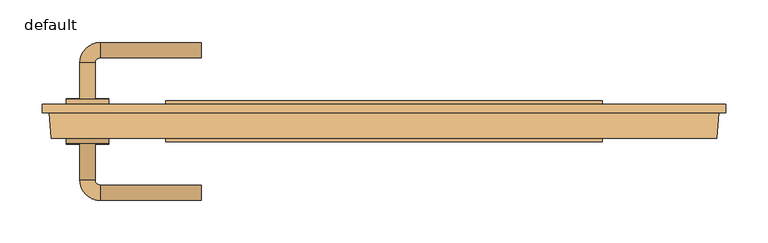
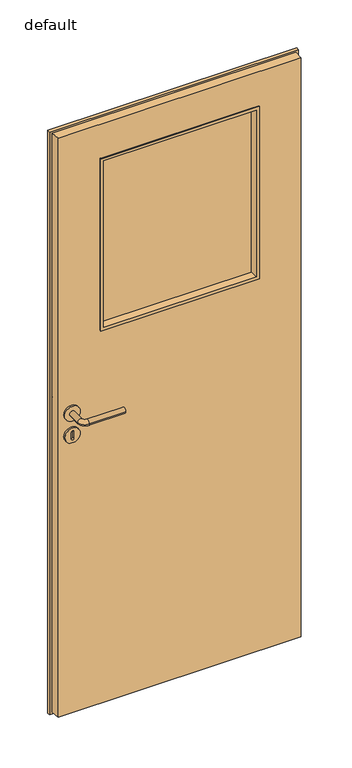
"""IFC4 building model written with IfcOpenShell, lengths in millimetres: door geometry, Panel_FIN_40D_Rebated_Glazed_05 : default."""

from ifc_helpers import new_model, si_unit, point, frame, frame_2d, origin, place, context, project, spatial, polyline, circle_curve, ellipse_curve, trimmed, segment, composite_curve, outline, extrude, faceted_brep, source, transform, mapped, element, save
from ifc_brep_helpers import plane_surface, cylinder_surface, revolved_surface, advanced_brep


def default_3b366235(model_context):
    return source(origin(), model_context, "Body", "SolidModel", [
        extrude(outline(composite_curve([segment(trimmed(circle_curve(frame_2d((970.5, -349.5)), 25.0), [point((970.5, -324.5))], [point((970.5, -374.5))], False, "CARTESIAN"), True, "CONTINUOUS"), segment(trimmed(circle_curve(frame_2d((970.5, -349.5)), 25.0), [point((970.5, -374.5))], [point((970.5, -324.5))], False, "CARTESIAN"), True, "CONTINUOUS")], self_intersect=False), holes=[composite_curve([segment(trimmed(circle_curve(frame_2d((981.743411, -349.5)), 4.0), [point((981.743411, -353.5))], [point((981.743411, -345.5))], True, "CARTESIAN"), True, "CONTINUOUS"), segment(polyline([(981.743411, -345.5), (959.256589, -345.5)]), True, "CONTINUOUS"), segment(trimmed(circle_curve(frame_2d((959.256589, -349.5)), 4.0), [point((959.256589, -345.5))], [point((959.256589, -353.5))], True, "CARTESIAN"), True, "CONTINUOUS"), segment(polyline([(959.256589, -353.5), (981.743411, -353.5)]), True, "CONTINUOUS")], self_intersect=False)]), frame((0.0, -47.0, 0.0), z_axis=(0.0, 1.0, 0.0), x_axis=(0.0, 0.0, 1.0)), (0.0, 0.0, 1.0), 7.0),
        extrude(outline(composite_curve([segment(trimmed(circle_curve(frame_2d((970.5, -349.5)), 25.0), [point((970.5, -324.5))], [point((970.5, -374.5))], False, "CARTESIAN"), True, "CONTINUOUS"), segment(trimmed(circle_curve(frame_2d((970.5, -349.5)), 25.0), [point((970.5, -374.5))], [point((970.5, -324.5))], False, "CARTESIAN"), True, "CONTINUOUS")], self_intersect=False), holes=[composite_curve([segment(polyline([(959.256589, -353.5), (981.743411, -353.5)]), True, "CONTINUOUS"), segment(trimmed(circle_curve(frame_2d((981.743411, -349.5)), 4.0), [point((981.743411, -353.5))], [point((981.743411, -345.5))], True, "CARTESIAN"), True, "CONTINUOUS"), segment(polyline([(981.743411, -345.5), (959.256589, -345.5)]), True, "CONTINUOUS"), segment(trimmed(circle_curve(frame_2d((959.256589, -349.5)), 4.0), [point((959.256589, -345.5))], [point((959.256589, -353.5))], True, "CARTESIAN"), True, "CONTINUOUS")], self_intersect=False)]), frame((0.0, 0.0, 0.0), z_axis=(0.0, 1.0, 0.0), x_axis=(0.0, 0.0, 1.0)), (0.0, 0.0, 1.0), 7.0),
        advanced_brep(
        [(-374.5, -46.0, 1044.5), (-324.5, -46.0, 1044.5), (-340.5346073, -46.0, 1044.5), (-358.4653927, -46.0, 1044.5), (-374.5, -40.0, 1044.5), (-324.5, -40.0, 1044.5), (-358.4653927, -88.9627146, 1044.5), (-340.5346073, -88.9627146, 1044.5), (-334.5, -112.9281073, 1044.5), (-334.5, -94.9973219, 1044.5), (-215.5, -94.9973219, 1044.5), (-215.5, -112.9281073, 1044.5)],
        [
            (0, 1, circle_curve(frame((-349.5, -46.0, 1044.5), z_axis=(0.0, -1.0, 0.0), x_axis=(1.0, 0.0, 0.0)), 25.0)),
            (1, 0, circle_curve(frame((-349.5, -46.0, 1044.5), z_axis=(0.0, -1.0, 0.0), x_axis=(1.0, 0.0, 0.0)), 25.0)),
            (2, 3, circle_curve(frame((-349.5, -46.0, 1044.5), z_axis=(0.0, 1.0, 0.0), x_axis=(-1.0, 0.0, 0.0)), 8.9653927)),
            (3, 2, circle_curve(frame((-349.5, -46.0, 1044.5), z_axis=(0.0, 1.0, 0.0), x_axis=(-1.0, 0.0, 0.0)), 8.9653927)),
            (4, 5, circle_curve(frame((-349.5, -40.0, 1044.5), z_axis=(0.0, 1.0, 0.0), x_axis=(1.0, 0.0, 0.0)), 25.0)),
            (5, 4, circle_curve(frame((-349.5, -40.0, 1044.5), z_axis=(0.0, 1.0, 0.0), x_axis=(1.0, 0.0, 0.0)), 25.0)),
            (0, 4),
            (5, 1),
            (3, 6),
            (6, 7, circle_curve(frame((-349.5, -88.9627146, 1044.5), z_axis=(0.0, 1.0, 0.0), x_axis=(-1.0, 0.0, 0.0)), 8.9653927)),
            (7, 2),
            (7, 6, circle_curve(frame((-349.5, -88.9627146, 1044.5), z_axis=(0.0, 1.0, 0.0), x_axis=(-1.0, 0.0, 0.0)), 8.9653927)),
            (6, 8, circle_curve(frame((-334.5, -88.9627146, 1044.5), z_axis=(0.0, 0.0, 1.0), x_axis=(-1.0, 0.0, 0.0)), 23.9653927)),
            (8, 9, circle_curve(frame((-334.5, -103.9627146, 1044.5), z_axis=(-1.0, 0.0, 0.0), x_axis=(0.0, -1.0, 0.0)), 8.9653927)),
            (9, 7, circle_curve(frame((-334.5, -88.9627146, 1044.5), z_axis=(0.0, 0.0, -1.0), x_axis=(-1.0, 0.0, 0.0)), 6.0346073)),
            (9, 8, circle_curve(frame((-334.5, -103.9627146, 1044.5), z_axis=(-1.0, 0.0, 0.0), x_axis=(0.0, -1.0, 0.0)), 8.9653927)),
            (10, 11, circle_curve(frame((-215.5, -103.9627146, 1044.5), z_axis=(1.0, 0.0, 0.0), x_axis=(0.0, -1.0, 0.0)), 8.9653927)),
            (11, 10, circle_curve(frame((-215.5, -103.9627146, 1044.5), z_axis=(1.0, 0.0, 0.0), x_axis=(0.0, -1.0, 0.0)), 8.9653927)),
            (8, 11),
            (10, 9),
        ],
        [
            plane_surface(frame((-324.5, -46.0, 1044.5), z_axis=(0.0, -1.0, 0.0), x_axis=(0.0, 0.0, -1.0))),
            plane_surface(frame((-324.5, -40.0, 1044.5), z_axis=(0.0, 1.0, 0.0), x_axis=(0.0, 0.0, 1.0))),
            cylinder_surface(frame((-349.5, -46.0, 1044.5), z_axis=(0.0, 1.0, 0.0), x_axis=(1.0, 0.0, 0.0)), 25.0),
            cylinder_surface(frame((-349.5, -46.0, 1044.5), z_axis=(0.0, 1.0, 0.0), x_axis=(-1.0, 0.0, 0.0)), 8.9653927),
            revolved_surface(trimmed(ellipse_curve(frame((-349.5, -88.9627146, 1044.5), z_axis=(0.0, -1.0, 0.0), x_axis=(-1.0, 0.0, 0.0)), 8.9653927, 8.9653927), [point((-340.5346073, -88.9627146, 1044.5))], [point((-358.4653927, -88.9627146, 1044.5))], True, "CARTESIAN"), (-334.5, -88.9627146, 1044.5), (0.0, 0.0, -1.0)),
            revolved_surface(trimmed(ellipse_curve(frame((-349.5, -88.9627146, 1044.5), z_axis=(0.0, -1.0, 0.0), x_axis=(-1.0, 0.0, 0.0)), 8.9653927, 8.9653927), [point((-358.4653927, -88.9627146, 1044.5))], [point((-340.5346073, -88.9627146, 1044.5))], True, "CARTESIAN"), (-334.5, -88.9627146, 1044.5), (0.0, 0.0, -1.0)),
            plane_surface(frame((-215.5, -103.9627146, 1044.5), z_axis=(1.0, 0.0, 0.0), x_axis=(0.0, 0.0, 1.0))),
            cylinder_surface(frame((-334.5, -103.9627146, 1044.5), z_axis=(-1.0, 0.0, 0.0), x_axis=(0.0, -1.0, 0.0)), 8.9653927),
        ],
        [
            (0, [[1, 2], [3, 4]]),
            (1, [[5, 6]]),
            (2, [[7, -6, 8, -1]]),
            (2, [[-8, -5, -7, -2]]),
            (3, [[-4, 9, 10, 11]]),
            (3, [[12, -9, -3, -11]]),
            (4, [[13, 14, 15, -10]]),
            (5, [[-15, 16, -13, -12]]),
            (6, [[17, 18]]),
            (7, [[19, -17, 20, -14]]),
            (7, [[-20, -18, -19, -16]]),
        ],
    ),
        advanced_brep(
        [(-374.5, 6.0, 1044.5), (-324.5, 6.0, 1044.5), (-340.5346073, 6.0, 1044.5), (-358.4653927, 6.0, 1044.5), (-374.5, 0.0, 1044.5), (-324.5, 0.0, 1044.5), (-340.5346073, 48.9627146, 1044.5), (-358.4653927, 48.9627146, 1044.5), (-334.5, 54.9973219, 1044.5), (-334.5, 72.9281073, 1044.5), (-215.5, 54.9973219, 1044.5), (-215.5, 72.9281073, 1044.5)],
        [
            (0, 1, circle_curve(frame((-349.5, 6.0, 1044.5), z_axis=(0.0, 1.0, 0.0), x_axis=(1.0, 0.0, 0.0)), 25.0)),
            (1, 0, circle_curve(frame((-349.5, 6.0, 1044.5), z_axis=(0.0, 1.0, 0.0), x_axis=(1.0, 0.0, 0.0)), 25.0)),
            (2, 3, circle_curve(frame((-349.5, 6.0, 1044.5), z_axis=(0.0, -1.0, 0.0), x_axis=(-1.0, 0.0, 0.0)), 8.9653927)),
            (3, 2, circle_curve(frame((-349.5, 6.0, 1044.5), z_axis=(0.0, -1.0, 0.0), x_axis=(-1.0, 0.0, 0.0)), 8.9653927)),
            (4, 5, circle_curve(frame((-349.5, 0.0, 1044.5), z_axis=(0.0, -1.0, 0.0), x_axis=(1.0, 0.0, 0.0)), 25.0)),
            (5, 4, circle_curve(frame((-349.5, 0.0, 1044.5), z_axis=(0.0, -1.0, 0.0), x_axis=(1.0, 0.0, 0.0)), 25.0)),
            (1, 5),
            (4, 0),
            (2, 6),
            (6, 7, circle_curve(frame((-349.5, 48.9627146, 1044.5), z_axis=(0.0, -1.0, 0.0), x_axis=(-1.0, 0.0, 0.0)), 8.9653927)),
            (7, 3),
            (7, 6, circle_curve(frame((-349.5, 48.9627146, 1044.5), z_axis=(0.0, -1.0, 0.0), x_axis=(-1.0, 0.0, 0.0)), 8.9653927)),
            (6, 8, circle_curve(frame((-334.5, 48.9627146, 1044.5), z_axis=(0.0, 0.0, -1.0), x_axis=(-1.0, 0.0, 0.0)), 6.0346073)),
            (8, 9, circle_curve(frame((-334.5, 63.9627146, 1044.5), z_axis=(-1.0, 0.0, 0.0), x_axis=(0.0, 1.0, 0.0)), 8.9653927)),
            (9, 7, circle_curve(frame((-334.5, 48.9627146, 1044.5), z_axis=(0.0, 0.0, 1.0), x_axis=(-1.0, 0.0, 0.0)), 23.9653927)),
            (9, 8, circle_curve(frame((-334.5, 63.9627146, 1044.5), z_axis=(-1.0, 0.0, 0.0), x_axis=(0.0, 1.0, 0.0)), 8.9653927)),
            (10, 11, circle_curve(frame((-215.5, 63.9627146, 1044.5), z_axis=(1.0, 0.0, 0.0), x_axis=(0.0, 1.0, 0.0)), 8.9653927)),
            (11, 10, circle_curve(frame((-215.5, 63.9627146, 1044.5), z_axis=(1.0, 0.0, 0.0), x_axis=(0.0, 1.0, 0.0)), 8.9653927)),
            (8, 10),
            (11, 9),
        ],
        [
            plane_surface(frame((-324.5, 6.0, 1044.5), z_axis=(0.0, 1.0, 0.0), x_axis=(0.0, 0.0, -1.0))),
            plane_surface(frame((-324.5, 0.0, 1044.5), z_axis=(0.0, -1.0, 0.0), x_axis=(0.0, 0.0, 1.0))),
            cylinder_surface(frame((-349.5, 6.0, 1044.5), z_axis=(0.0, -1.0, 0.0), x_axis=(1.0, 0.0, 0.0)), 25.0),
            cylinder_surface(frame((-349.5, 6.0, 1044.5), z_axis=(0.0, -1.0, 0.0), x_axis=(-1.0, 0.0, 0.0)), 8.9653927),
            revolved_surface(trimmed(ellipse_curve(frame((-349.5, 48.9627146, 1044.5), z_axis=(0.0, -1.0, 0.0), x_axis=(-1.0, 0.0, 0.0)), 8.9653927, 8.9653927), [point((-340.5346073, 48.9627146, 1044.5))], [point((-358.4653927, 48.9627146, 1044.5))], True, "CARTESIAN"), (-334.5, 48.9627146, 1044.5), (0.0, 0.0, -1.0)),
            revolved_surface(trimmed(ellipse_curve(frame((-349.5, 48.9627146, 1044.5), z_axis=(0.0, -1.0, 0.0), x_axis=(-1.0, 0.0, 0.0)), 8.9653927, 8.9653927), [point((-358.4653927, 48.9627146, 1044.5))], [point((-340.5346073, 48.9627146, 1044.5))], True, "CARTESIAN"), (-334.5, 48.9627146, 1044.5), (0.0, 0.0, -1.0)),
            plane_surface(frame((-215.5, 63.9627146, 1044.5), z_axis=(1.0, 0.0, 0.0), x_axis=(0.0, 0.0, 1.0))),
            cylinder_surface(frame((-334.5, 63.9627146, 1044.5), z_axis=(-1.0, 0.0, 0.0), x_axis=(0.0, 1.0, 0.0)), 8.9653927),
        ],
        [
            (0, [[1, 2], [3, 4]]),
            (1, [[5, 6]]),
            (2, [[-2, 7, -5, 8]]),
            (2, [[-1, -8, -6, -7]]),
            (3, [[9, 10, 11, -3]]),
            (3, [[-9, -4, -11, 12]]),
            (4, [[-10, 13, 14, 15]]),
            (5, [[-12, -15, 16, -13]]),
            (6, [[17, 18]]),
            (7, [[-14, 19, -18, 20]]),
            (7, [[-16, -20, -17, -19]]),
        ],
    ),
        faceted_brep([(392.4021956, -40.0, 18.0), (392.4021956, -40.0, 1997.0), (-392.4021956, -40.0, 1997.0), (-392.4021956, -40.0, 18.0), (-252.5, -40.0, 1297.0), (-252.5, -40.0, 1876.0), (252.5, -40.0, 1876.0), (252.5, -40.0, 1297.0), (394.5, -10.0, 18.0), (394.5, -10.0, 1997.0), (-394.5, -10.0, 1997.0), (-394.5, -10.0, 18.0), (-402.5, 0.0, 2003.0), (402.5, 0.0, 2003.0), (402.5, 0.0, 12.0), (-402.5, 0.0, 12.0), (-252.5, 0.0, 1876.0), (-252.5, 0.0, 1297.0), (252.5, 0.0, 1297.0), (252.5, 0.0, 1876.0), (402.5, -10.0, 2003.0), (402.5, -10.0, 12.0), (-402.5, -10.0, 12.0), (-402.5, -10.0, 2003.0)], [[[0, 1, 2, 3], [4, 5, 6, 7]], [[1, 0, 8, 9]], [[3, 2, 10, 11]], [[11, 8, 0, 3]], [[12, 13, 14, 15], [16, 17, 18, 19]], [[14, 13, 20, 21]], [[15, 14, 21, 22]], [[12, 15, 22, 23]], [[22, 21, 20, 23], [11, 10, 9, 8]], [[13, 12, 23, 20]], [[9, 10, 2, 1]], [[16, 5, 4, 17]], [[17, 4, 7, 18]], [[18, 7, 6, 19]], [[5, 16, 19, 6]]]),
        faceted_brep([(-247.0, 4.0, 1870.5), (-242.5, -17.0, 1866.0), (-242.5, -17.0, 1307.0), (-247.0, 4.0, 1302.5), (-252.5, -16.2, 1876.0), (-252.5, -16.2, 1297.0), (-252.5, 0.0, 1876.0), (-252.5, 0.0, 1297.0), (-257.0, 0.0, 1880.5), (-257.0, 4.0, 1880.5), (-257.0, 4.0, 1292.5), (-257.0, 0.0, 1292.5), (242.5, -17.0, 1307.0), (247.0, 4.0, 1302.5), (252.5, -16.2, 1297.0), (252.5, 0.0, 1297.0), (257.0, 4.0, 1292.5), (257.0, 0.0, 1292.5), (242.5, -17.0, 1866.0), (247.0, 4.0, 1870.5), (252.5, -16.2, 1876.0), (252.5, 0.0, 1876.0), (257.0, 4.0, 1880.5), (257.0, 0.0, 1880.5)], [[[0, 1, 2, 3]], [[1, 4, 5, 2]], [[4, 6, 7, 5]], [[8, 9, 10, 11]], [[3, 2, 12, 13]], [[2, 5, 14, 12]], [[5, 7, 15, 14]], [[11, 10, 16, 17]], [[13, 12, 18, 19]], [[12, 14, 20, 18]], [[14, 15, 21, 20]], [[17, 16, 22, 23]], [[19, 18, 1, 0]], [[18, 20, 4, 1]], [[20, 21, 6, 4]], [[11, 17, 23, 8], [6, 21, 15, 7]], [[23, 22, 9, 8]], [[9, 22, 16, 10], [3, 13, 19, 0]]]),
        faceted_brep([(247.0, -44.0, 1870.5), (242.5, -23.0, 1866.0), (242.5, -23.0, 1307.0), (247.0, -44.0, 1302.5), (252.5, -23.8, 1876.0), (252.5, -23.8, 1297.0), (252.5, -40.0, 1876.0), (252.5, -40.0, 1297.0), (257.0, -40.0, 1880.5), (257.0, -44.0, 1880.5), (257.0, -44.0, 1292.5), (257.0, -40.0, 1292.5), (-242.5, -23.0, 1307.0), (-247.0, -44.0, 1302.5), (-252.5, -23.8, 1297.0), (-252.5, -40.0, 1297.0), (-257.0, -44.0, 1292.5), (-257.0, -40.0, 1292.5), (-242.5, -23.0, 1866.0), (-247.0, -44.0, 1870.5), (-252.5, -23.8, 1876.0), (-252.5, -40.0, 1876.0), (-257.0, -44.0, 1880.5), (-257.0, -40.0, 1880.5)], [[[0, 1, 2, 3]], [[1, 4, 5, 2]], [[4, 6, 7, 5]], [[8, 9, 10, 11]], [[3, 2, 12, 13]], [[2, 5, 14, 12]], [[5, 7, 15, 14]], [[11, 10, 16, 17]], [[13, 12, 18, 19]], [[12, 14, 20, 18]], [[14, 15, 21, 20]], [[17, 16, 22, 23]], [[19, 18, 1, 0]], [[18, 20, 4, 1]], [[20, 21, 6, 4]], [[11, 17, 23, 8], [6, 21, 15, 7]], [[23, 22, 9, 8]], [[9, 22, 16, 10], [3, 13, 19, 0]]]),
        extrude(outline(polyline([(-252.5, -17.0), (252.5, -17.0), (252.5, -23.0), (-252.5, -23.0), (-252.5, -17.0)])), frame((0.0, 0.0, 1297.0), z_axis=(0.0, 0.0, 1.0), x_axis=(1.0, 0.0, 0.0)), (0.0, 0.0, 1.0), 579.0),
    ])


if __name__ == "__main__":
    model = new_model("IFC4")
    model_context = context("Model", 3, world=origin())
    ifc_project = project(units=[si_unit("LENGTHUNIT", "METRE", prefix="MILLI")], contexts=[model_context])
    site = spatial("IfcSite", under=ifc_project)
    building = spatial("IfcBuilding", under=site)
    placement = place(None, origin())
    default_shape = default_3b366235(model_context)
    element("IfcDoor", 1, ObjectType="Panel_FIN_40D_Rebated_Glazed_05 : default", at=placement, inside=building, context=model_context, shape_type="MappedRepresentation", body=[
        mapped(default_shape, transform((0.0, 0.0, 0.0), x_axis=(1.0, 0.0, 0.0), y_axis=(0.0, 1.0, 0.0), z_axis=(0.0, 0.0, 1.0))),
    ])
    save(model, "model.ifc")
